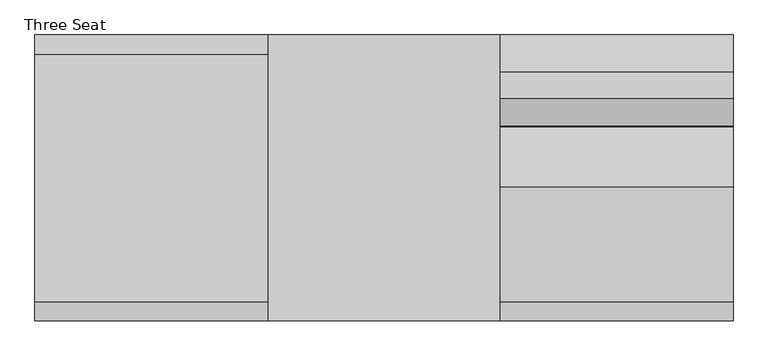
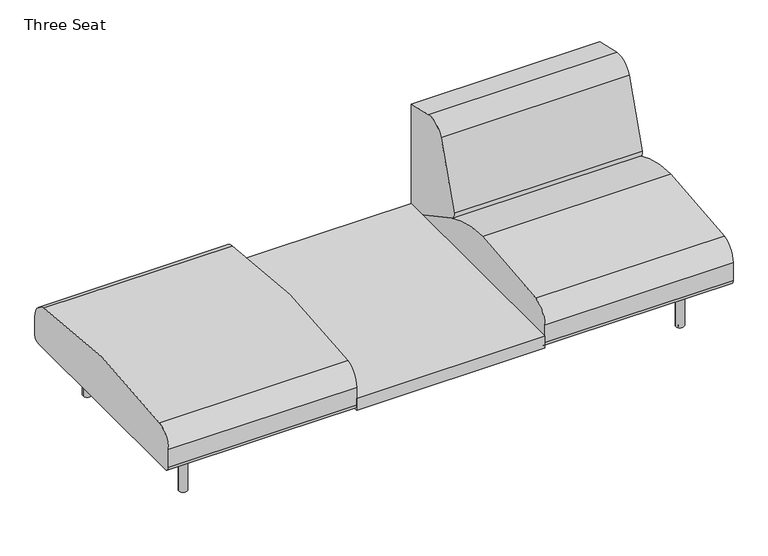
"""IFC4 building model written with IfcOpenShell, lengths in millimetres: furniture geometry, Coalesse_AM_Seating_LoungeChair_Sistema_LegBase_ThreeSeat : Three Seat."""

from ifc_helpers import new_model, si_unit, point, frame, frame_2d, origin, origin_with_axes, place, context, project, spatial, polyline, circle_curve, trimmed, segment, composite_curve, outline, extrude, source, transform, mapped, element, save


def three_seat_eb3bdbba(model_context):
    return source(origin(), model_context, "Body", "SweptSolid", [
        extrude(outline(composite_curve([segment(trimmed(circle_curve(frame_2d((-438.9184381, 226.822)), 22.352), [point((-438.9184381, 204.47))], [point((-461.2704381, 226.822))], False, "CARTESIAN"), True, "CONTINUOUS"), segment(polyline([(-461.2704381, 226.822), (-461.2704381, 301.4421993)]), True, "CONTINUOUS"), segment(trimmed(circle_curve(frame_2d((-385.0704381, 301.4421993)), 76.2), [point((-461.2704381, 301.4421993))], [point((-398.9279534, 376.3715612))], False, "CARTESIAN"), True, "CONTINUOUS"), segment(trimmed(circle_curve(frame_2d((-0.3717831, -1778.6727457)), 2191.5891461), [point((-398.9279534, 376.3715612))], [point((397.0993513, 376.5719464))], False, "CARTESIAN"), True, "CONTINUOUS"), segment(trimmed(circle_curve(frame_2d((383.2795619, 301.6356173)), 76.2), [point((397.0993513, 376.5719464))], [point((459.4795619, 301.6356173))], False, "CARTESIAN"), True, "CONTINUOUS"), segment(polyline([(459.4795619, 301.6356173), (459.4795619, 226.7871991)]), True, "CONTINUOUS"), segment(trimmed(circle_curve(frame_2d((437.1623628, 226.7871991)), 22.3171991), [point((459.4795619, 226.7871991))], [point((437.1623628, 204.47))], False, "CARTESIAN"), True, "CONTINUOUS"), segment(polyline([(437.1623628, 204.47), (-438.9184381, 204.47)]), True, "CONTINUOUS")], self_intersect=False)), frame((-374.8034773, 0.0, 0.0), z_axis=(1.0, 0.0, 0.0), x_axis=(0.0, 1.0, 0.0)), (0.0, 0.0, 1.0), 749.3),
        extrude(outline(polyline([(1123.7965227, 459.4795619), (1123.7965227, -461.2704381), (374.4965227, -461.2704381), (374.4965227, 459.4795619), (1123.7965227, 459.4795619)])), frame((0.0, 0.0, 204.47), z_axis=(0.0, 0.0, 1.0), x_axis=(1.0, 0.0, 0.0)), (0.0, 0.0, 1.0), 51.0294654),
        extrude(outline(composite_curve([segment(polyline([(459.4795619, 673.6041325), (459.4795619, 228.1929806)]), True, "CONTINUOUS"), segment(trimmed(circle_curve(frame_2d((191.495971, 228.1929806)), 267.983591), [point((459.4795619, 228.1929806))], [point((458.9860775, 211.937276))], False, "CARTESIAN"), True, "CONTINUOUS"), segment(polyline([(458.9860775, 211.937276), (177.4990556, 364.1028799)]), True, "CONTINUOUS"), segment(trimmed(circle_curve(frame_2d((189.5778307, 386.4470781)), 25.4), [point((177.4990556, 364.1028799))], [point((164.9600055, 392.7018911))], False, "CARTESIAN"), True, "CONTINUOUS"), segment(trimmed(circle_curve(frame_2d((1918.112812, -52.7331923)), 1808.8552115), [point((164.9600055, 392.7018911))], [point((254.1018253, 656.5090883))], False, "CARTESIAN"), True, "CONTINUOUS"), segment(trimmed(circle_curve(frame_2d((324.2001043, 626.6314831)), 76.2), [point((254.1018253, 656.5090883))], [point((341.3413746, 700.8784821))], False, "CARTESIAN"), True, "CONTINUOUS"), segment(polyline([(341.3413746, 700.8784821), (459.4795619, 673.6041325)]), True, "CONTINUOUS")], self_intersect=False)), frame((1123.7965227, 0.0, 0.0), z_axis=(1.0, 0.0, 0.0), x_axis=(0.0, 1.0, 0.0)), (0.0, 0.0, 1.0), 749.3),
        extrude(outline(composite_curve([segment(trimmed(circle_curve(frame_2d((-438.9184381, 226.822)), 22.352), [point((-438.9184381, 204.47))], [point((-461.2704381, 226.822))], False, "CARTESIAN"), True, "CONTINUOUS"), segment(polyline([(-461.2704381, 226.822), (-461.2704381, 301.4421993)]), True, "CONTINUOUS"), segment(trimmed(circle_curve(frame_2d((-385.0704381, 301.4421993)), 76.2), [point((-461.2704381, 301.4421993))], [point((-398.9277015, 376.3716077))], False, "CARTESIAN"), True, "CONTINUOUS"), segment(trimmed(circle_curve(frame_2d((2.2103559, -1792.6740646)), 2205.8265729), [point((-398.9277015, 376.3716077))], [point((-31.1968175, 412.8995185))], False, "CARTESIAN"), True, "CONTINUOUS"), segment(trimmed(circle_curve(frame_2d((-24.5128424, -28.3829182)), 441.333054), [point((-31.1968175, 412.8995185))], [point((184.5757008, 360.2774035))], False, "CARTESIAN"), True, "CONTINUOUS"), segment(polyline([(184.5757008, 360.2774035), (458.9860775, 211.937276)]), True, "CONTINUOUS"), segment(trimmed(circle_curve(frame_2d((442.3266309, 226.7871991)), 22.3171991), [point((458.9860775, 211.937276))], [point((442.3266309, 204.47))], False, "CARTESIAN"), True, "CONTINUOUS"), segment(polyline([(442.3266309, 204.47), (-438.9184381, 204.47)]), True, "CONTINUOUS")], self_intersect=False)), frame((1123.7965227, 0.0, 0.0), z_axis=(1.0, 0.0, 0.0), x_axis=(0.0, 1.0, 0.0)), (0.0, 0.0, 1.0), 749.3),
        extrude(outline(composite_curve([segment(trimmed(circle_curve(frame_2d((1738.4765227, 335.9943389)), 6.096), [point((1744.5725227, 335.9943389))], [point((1732.3805227, 335.9943389))], False, "CARTESIAN"), True, "CONTINUOUS"), segment(trimmed(circle_curve(frame_2d((1738.4765227, 335.9943389)), 6.096), [point((1732.3805227, 335.9943389))], [point((1744.5725227, 335.9943389))], False, "CARTESIAN"), True, "CONTINUOUS")], self_intersect=False)), origin_with_axes(), (0.0, 0.0, 1.0), 4.3662291),
        extrude(outline(composite_curve([segment(trimmed(circle_curve(frame_2d((1738.4765227, -327.2630889)), 6.096), [point((1744.5725227, -327.2630889))], [point((1732.3805227, -327.2630889))], False, "CARTESIAN"), True, "CONTINUOUS"), segment(trimmed(circle_curve(frame_2d((1738.4765227, -327.2630889)), 6.096), [point((1732.3805227, -327.2630889))], [point((1744.5725227, -327.2630889))], False, "CARTESIAN"), True, "CONTINUOUS")], self_intersect=False)), origin_with_axes(), (0.0, 0.0, 1.0), 4.3662291),
        extrude(outline(composite_curve([segment(polyline([(157.0399209, 1751.056375), (201.7356243, 1751.056375)]), True, "CONTINUOUS"), segment(trimmed(circle_curve(frame_2d((201.7356243, 1748.008375)), 3.048), [point((201.7356243, 1751.056375))], [point((204.7836243, 1748.008375))], False, "CARTESIAN"), True, "CONTINUOUS"), segment(polyline([(204.7836243, 1748.008375), (204.7836243, 1728.666199)]), True, "CONTINUOUS"), segment(trimmed(circle_curve(frame_2d((201.7356243, 1728.666199)), 3.048), [point((204.7836243, 1728.666199))], [point((201.7356243, 1725.618199))], False, "CARTESIAN"), True, "CONTINUOUS"), segment(polyline([(201.7356243, 1725.618199), (157.1249936, 1725.618199)]), True, "CONTINUOUS"), segment(trimmed(circle_curve(frame_2d((157.1249936, 1728.7512718)), 3.1330728), [point((157.1249936, 1725.618199))], [point((153.9919209, 1728.7512718))], False, "CARTESIAN"), True, "CONTINUOUS"), segment(polyline([(153.9919209, 1728.7512718), (153.9919209, 1748.008375)]), True, "CONTINUOUS"), segment(trimmed(circle_curve(frame_2d((157.0399209, 1748.008375)), 3.048), [point((153.9919209, 1748.008375))], [point((157.0399209, 1751.056375))], False, "CARTESIAN"), True, "CONTINUOUS")], self_intersect=False)), frame((0.0, 222.3519802, 0.0), z_axis=(0.0, 1.0, 0.0), x_axis=(0.0, 0.0, 1.0)), (0.0, 0.0, 1.0), 92.6273161),
        extrude(outline(composite_curve([segment(polyline([(157.0399209, 1751.056375), (201.7356243, 1751.056375)]), True, "CONTINUOUS"), segment(trimmed(circle_curve(frame_2d((201.7356243, 1748.008375)), 3.048), [point((201.7356243, 1751.056375))], [point((204.7836243, 1748.008375))], False, "CARTESIAN"), True, "CONTINUOUS"), segment(polyline([(204.7836243, 1748.008375), (204.7836243, 1728.666199)]), True, "CONTINUOUS"), segment(trimmed(circle_curve(frame_2d((201.7356243, 1728.666199)), 3.048), [point((204.7836243, 1728.666199))], [point((201.7356243, 1725.618199))], False, "CARTESIAN"), True, "CONTINUOUS"), segment(polyline([(201.7356243, 1725.618199), (157.1249936, 1725.618199)]), True, "CONTINUOUS"), segment(trimmed(circle_curve(frame_2d((157.1249936, 1728.7512718)), 3.1330728), [point((157.1249936, 1725.618199))], [point((153.9919209, 1728.7512718))], False, "CARTESIAN"), True, "CONTINUOUS"), segment(polyline([(153.9919209, 1728.7512718), (153.9919209, 1748.008375)]), True, "CONTINUOUS"), segment(trimmed(circle_curve(frame_2d((157.0399209, 1748.008375)), 3.048), [point((153.9919209, 1748.008375))], [point((157.0399209, 1751.056375))], False, "CARTESIAN"), True, "CONTINUOUS")], self_intersect=False)), frame((0.0, -314.9792963, 0.0), z_axis=(0.0, 1.0, 0.0), x_axis=(0.0, 0.0, 1.0)), (0.0, 0.0, 1.0), 92.6273161),
        extrude(outline(composite_curve([segment(trimmed(circle_curve(frame_2d((176.3356606, 1715.8259944)), 3.048), [point((179.3836606, 1715.8259944))], [point((176.3356606, 1712.7779944))], False, "CARTESIAN"), True, "CONTINUOUS"), segment(polyline([(176.3356606, 1712.7779944), (157.0399209, 1712.7779944)]), True, "CONTINUOUS"), segment(trimmed(circle_curve(frame_2d((157.0399209, 1715.8259944)), 3.048), [point((157.0399209, 1712.7779944))], [point((153.9919209, 1715.8259944))], False, "CARTESIAN"), True, "CONTINUOUS"), segment(polyline([(153.9919209, 1715.8259944), (153.9919209, 1760.5135501)]), True, "CONTINUOUS"), segment(trimmed(circle_curve(frame_2d((157.056462, 1760.5135501)), 3.0645412), [point((153.9919209, 1760.5135501))], [point((157.056462, 1763.5780913))], False, "CARTESIAN"), True, "CONTINUOUS"), segment(polyline([(157.056462, 1763.5780913), (176.3356606, 1763.5780913)]), True, "CONTINUOUS"), segment(trimmed(circle_curve(frame_2d((176.3356606, 1760.5300913)), 3.048), [point((176.3356606, 1763.5780913))], [point((179.3836606, 1760.5300913))], False, "CARTESIAN"), True, "CONTINUOUS"), segment(polyline([(179.3836606, 1760.5300913), (179.3836606, 1715.8259944)]), True, "CONTINUOUS")], self_intersect=False)), frame((0.0, -222.3519802, 0.0), z_axis=(0.0, 1.0, 0.0), x_axis=(0.0, 0.0, 1.0)), (0.0, 0.0, 1.0), 444.7039604),
        extrude(outline(composite_curve([segment(trimmed(circle_curve(frame_2d((1738.4765227, 332.3095741)), 16.51), [point((1754.9865227, 332.3095741))], [point((1721.9665227, 332.3095741))], False, "CARTESIAN"), True, "CONTINUOUS"), segment(trimmed(circle_curve(frame_2d((1738.4765227, 332.3095741)), 16.51), [point((1721.9665227, 332.3095741))], [point((1754.9865227, 332.3095741))], False, "CARTESIAN"), True, "CONTINUOUS")], self_intersect=False)), frame((0.0, 0.0, 4.3662291), z_axis=(0.0, 0.0, 1.0), x_axis=(1.0, 0.0, 0.0)), (0.0, 0.0, 1.0), 200.1037709),
        extrude(outline(composite_curve([segment(trimmed(circle_curve(frame_2d((1738.0796477, -327.5470741)), 16.51), [point((1754.5896477, -327.5470741))], [point((1721.5696477, -327.5470741))], False, "CARTESIAN"), True, "CONTINUOUS"), segment(trimmed(circle_curve(frame_2d((1738.0796477, -327.5470741)), 16.51), [point((1721.5696477, -327.5470741))], [point((1754.5896477, -327.5470741))], False, "CARTESIAN"), True, "CONTINUOUS")], self_intersect=False)), frame((0.0, 0.0, 4.3662291), z_axis=(0.0, 0.0, 1.0), x_axis=(1.0, 0.0, 0.0)), (0.0, 0.0, 1.0), 200.1037709),
        extrude(outline(composite_curve([segment(trimmed(circle_curve(frame_2d((-240.1834773, 335.9943389)), 6.096), [point((-246.2794773, 335.9943389))], [point((-234.0874773, 335.9943389))], False, "CARTESIAN"), True, "CONTINUOUS"), segment(trimmed(circle_curve(frame_2d((-240.1834773, 335.9943389)), 6.096), [point((-234.0874773, 335.9943389))], [point((-246.2794773, 335.9943389))], False, "CARTESIAN"), True, "CONTINUOUS")], self_intersect=False)), origin_with_axes(), (0.0, 0.0, 1.0), 4.3662291),
        extrude(outline(composite_curve([segment(trimmed(circle_curve(frame_2d((-240.1834773, -327.2630889)), 6.096), [point((-246.2794773, -327.2630889))], [point((-234.0874773, -327.2630889))], False, "CARTESIAN"), True, "CONTINUOUS"), segment(trimmed(circle_curve(frame_2d((-240.1834773, -327.2630889)), 6.096), [point((-234.0874773, -327.2630889))], [point((-246.2794773, -327.2630889))], False, "CARTESIAN"), True, "CONTINUOUS")], self_intersect=False)), origin_with_axes(), (0.0, 0.0, 1.0), 4.3662291),
        extrude(outline(composite_curve([segment(trimmed(circle_curve(frame_2d((157.0399209, -249.7153296)), 3.048), [point((157.0399209, -252.7633296))], [point((153.9919209, -249.7153296))], False, "CARTESIAN"), True, "CONTINUOUS"), segment(polyline([(153.9919209, -249.7153296), (153.9919209, -230.4582264)]), True, "CONTINUOUS"), segment(trimmed(circle_curve(frame_2d((157.1249936, -230.4582264)), 3.1330728), [point((153.9919209, -230.4582264))], [point((157.1249936, -227.3251537))], False, "CARTESIAN"), True, "CONTINUOUS"), segment(polyline([(157.1249936, -227.3251537), (201.7356243, -227.3251537)]), True, "CONTINUOUS"), segment(trimmed(circle_curve(frame_2d((201.7356243, -230.3731537)), 3.048), [point((201.7356243, -227.3251537))], [point((204.7836243, -230.3731537))], False, "CARTESIAN"), True, "CONTINUOUS"), segment(polyline([(204.7836243, -230.3731537), (204.7836243, -249.7153296)]), True, "CONTINUOUS"), segment(trimmed(circle_curve(frame_2d((201.7356243, -249.7153296)), 3.048), [point((204.7836243, -249.7153296))], [point((201.7356243, -252.7633296))], False, "CARTESIAN"), True, "CONTINUOUS"), segment(polyline([(201.7356243, -252.7633296), (157.0399209, -252.7633296)]), True, "CONTINUOUS")], self_intersect=False)), frame((0.0, 222.3519802, 0.0), z_axis=(0.0, 1.0, 0.0), x_axis=(0.0, 0.0, 1.0)), (0.0, 0.0, 1.0), 92.6273161),
        extrude(outline(composite_curve([segment(trimmed(circle_curve(frame_2d((157.0399209, -249.7153296)), 3.048), [point((157.0399209, -252.7633296))], [point((153.9919209, -249.7153296))], False, "CARTESIAN"), True, "CONTINUOUS"), segment(polyline([(153.9919209, -249.7153296), (153.9919209, -230.4582264)]), True, "CONTINUOUS"), segment(trimmed(circle_curve(frame_2d((157.1249936, -230.4582264)), 3.1330728), [point((153.9919209, -230.4582264))], [point((157.1249936, -227.3251537))], False, "CARTESIAN"), True, "CONTINUOUS"), segment(polyline([(157.1249936, -227.3251537), (201.7356243, -227.3251537)]), True, "CONTINUOUS"), segment(trimmed(circle_curve(frame_2d((201.7356243, -230.3731537)), 3.048), [point((201.7356243, -227.3251537))], [point((204.7836243, -230.3731537))], False, "CARTESIAN"), True, "CONTINUOUS"), segment(polyline([(204.7836243, -230.3731537), (204.7836243, -249.7153296)]), True, "CONTINUOUS"), segment(trimmed(circle_curve(frame_2d((201.7356243, -249.7153296)), 3.048), [point((204.7836243, -249.7153296))], [point((201.7356243, -252.7633296))], False, "CARTESIAN"), True, "CONTINUOUS"), segment(polyline([(201.7356243, -252.7633296), (157.0399209, -252.7633296)]), True, "CONTINUOUS")], self_intersect=False)), frame((0.0, -314.9792963, 0.0), z_axis=(0.0, 1.0, 0.0), x_axis=(0.0, 0.0, 1.0)), (0.0, 0.0, 1.0), 92.6273161),
        extrude(outline(composite_curve([segment(polyline([(179.3836606, -217.532949), (179.3836606, -262.2370459)]), True, "CONTINUOUS"), segment(trimmed(circle_curve(frame_2d((176.3356606, -262.2370459)), 3.048), [point((179.3836606, -262.2370459))], [point((176.3356606, -265.2850459))], False, "CARTESIAN"), True, "CONTINUOUS"), segment(polyline([(176.3356606, -265.2850459), (157.056462, -265.2850459)]), True, "CONTINUOUS"), segment(trimmed(circle_curve(frame_2d((157.056462, -262.2205047)), 3.0645412), [point((157.056462, -265.2850459))], [point((153.9919209, -262.2205047))], False, "CARTESIAN"), True, "CONTINUOUS"), segment(polyline([(153.9919209, -262.2205047), (153.9919209, -217.532949)]), True, "CONTINUOUS"), segment(trimmed(circle_curve(frame_2d((157.0399209, -217.532949)), 3.048), [point((153.9919209, -217.532949))], [point((157.0399209, -214.484949))], False, "CARTESIAN"), True, "CONTINUOUS"), segment(polyline([(157.0399209, -214.484949), (176.3356606, -214.484949)]), True, "CONTINUOUS"), segment(trimmed(circle_curve(frame_2d((176.3356606, -217.532949)), 3.048), [point((176.3356606, -214.484949))], [point((179.3836606, -217.532949))], False, "CARTESIAN"), True, "CONTINUOUS")], self_intersect=False)), frame((0.0, -222.3519802, 0.0), z_axis=(0.0, 1.0, 0.0), x_axis=(0.0, 0.0, 1.0)), (0.0, 0.0, 1.0), 444.7039604),
        extrude(outline(composite_curve([segment(trimmed(circle_curve(frame_2d((-240.1834773, 332.3095741)), 16.51), [point((-256.6934773, 332.3095741))], [point((-223.6734773, 332.3095741))], False, "CARTESIAN"), True, "CONTINUOUS"), segment(trimmed(circle_curve(frame_2d((-240.1834773, 332.3095741)), 16.51), [point((-223.6734773, 332.3095741))], [point((-256.6934773, 332.3095741))], False, "CARTESIAN"), True, "CONTINUOUS")], self_intersect=False)), frame((0.0, 0.0, 4.3662291), z_axis=(0.0, 0.0, 1.0), x_axis=(1.0, 0.0, 0.0)), (0.0, 0.0, 1.0), 200.1037709),
        extrude(outline(composite_curve([segment(trimmed(circle_curve(frame_2d((-239.7866023, -327.5470741)), 16.51), [point((-256.2966023, -327.5470741))], [point((-223.2766023, -327.5470741))], False, "CARTESIAN"), True, "CONTINUOUS"), segment(trimmed(circle_curve(frame_2d((-239.7866023, -327.5470741)), 16.51), [point((-223.2766023, -327.5470741))], [point((-256.2966023, -327.5470741))], False, "CARTESIAN"), True, "CONTINUOUS")], self_intersect=False)), frame((0.0, 0.0, 4.3662291), z_axis=(0.0, 0.0, 1.0), x_axis=(1.0, 0.0, 0.0)), (0.0, 0.0, 1.0), 200.1037709),
    ])


if __name__ == "__main__":
    model = new_model("IFC4")
    model_context = context("Model", 3, world=origin())
    ifc_project = project(units=[si_unit("LENGTHUNIT", "METRE", prefix="MILLI")], contexts=[model_context])
    site = spatial("IfcSite", under=ifc_project)
    building = spatial("IfcBuilding", under=site)
    placement = place(None, origin())
    three_seat_shape = three_seat_eb3bdbba(model_context)
    element("IfcFurniture", 1, ObjectType="Coalesse_AM_Seating_LoungeChair_Sistema_LegBase_ThreeSeat : Three Seat", at=placement, inside=building, context=model_context, shape_type="MappedRepresentation", body=[
        mapped(three_seat_shape, transform((0.0, 0.0, 0.0), x_axis=(1.0, 0.0, 0.0), y_axis=(0.0, 1.0, 0.0), z_axis=(0.0, 0.0, 1.0))),
    ])
    save(model, "model.ifc")
